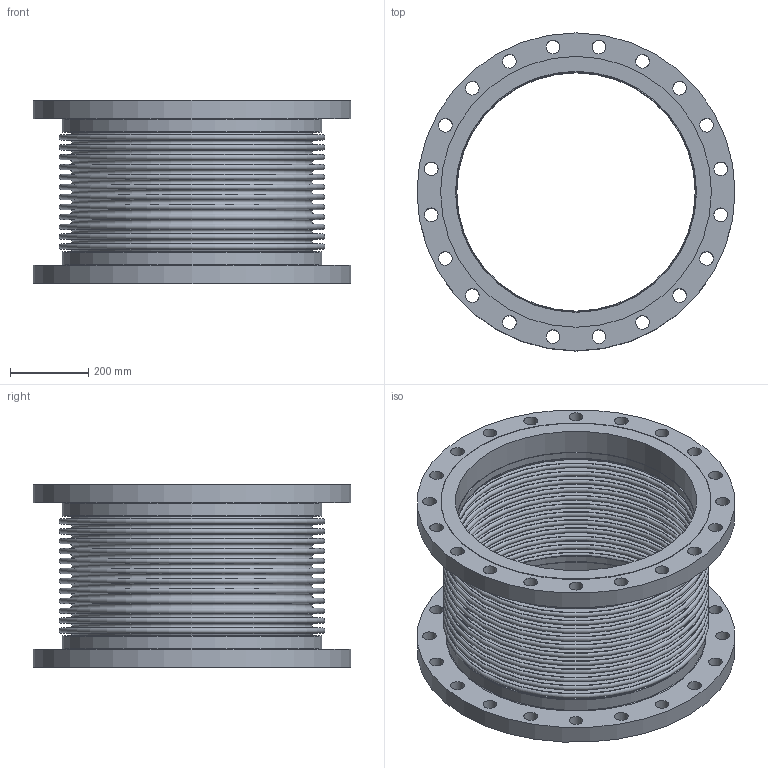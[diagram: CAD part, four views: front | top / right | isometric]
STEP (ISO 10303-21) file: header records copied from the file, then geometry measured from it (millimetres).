
FILE_DESCRIPTION(/* description */ ('EXPANSION JOINT,SINGLE, FLANGED ENDS,24 INCH','CAx-IF Rec.Pracs.---Representation and Presentation of Product Manufacturing Information (PMI)---4.0---2014-10-13'),/* implementation_level */ '2;1');
FILE_NAME(/* name */ 'US-24-12-85L-FLANGED ENDS.stp',/* time_stamp */ '2026-07-31T17:46:06-05:00',/* author */ ('Guadalupe'),/* organization */ (''),/* preprocessor_version */ 'ST-DEVELOPER v20.1',/* originating_system */ 'Autodesk Inventor 2026',/* authorisation */ '');
FILE_SCHEMA (('AP242_MANAGED_MODEL_BASED_3D_ENGINEERING_MIM_LF { 1 0 10303 442 2 1 4 }'));
Length unit declared in the file: inch
Products named in the file (3): 24-85L; 24-85L-02; 24-85L-01
Assembly tree (3 placements, depth 2):
  24-85L
    24-85L-02  x2
    24-85L-01
Bounding box: 812.8 x 812.8 x 469.9 mm (x, y, z)
Volume: 24667671.4 mm3; surface area: 5851068.7 mm2
Topology: 5 solids, 5 shells, 168 faces, 318 edges, 212 vertices
Faces by surface type: plane 62, torus 54, cylinder 52
Full cylindrical faces by diameter (mm): 34.925 x40, 609.6 x2, 612.038 x2, 615.95 x2, 663.702 x2, 692.15 x2, 812.8 x2
Entity records: 3762 total; most frequent: DIRECTION 766, CARTESIAN_POINT 561, ORIENTED_EDGE 480, AXIS2_PLACEMENT_3D 369, EDGE_CURVE 240, EDGE_LOOP 236, CIRCLE 212, VERTEX_POINT 160
